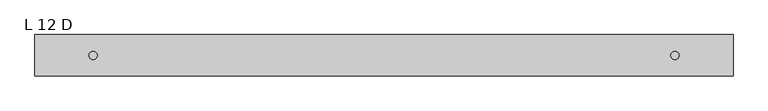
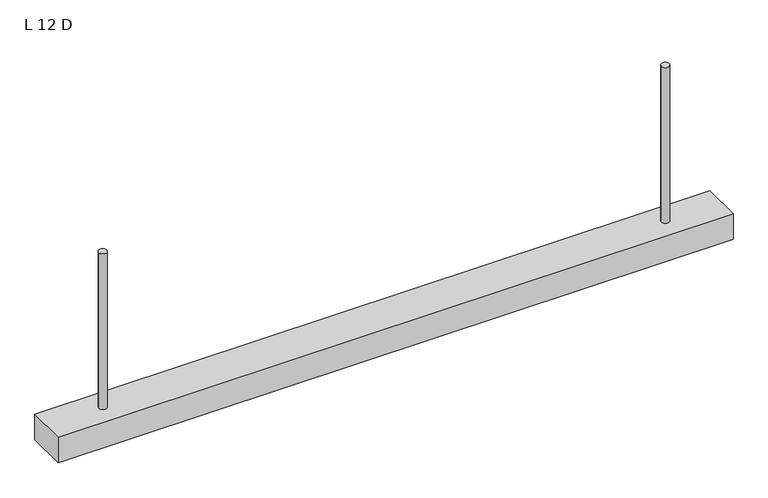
"""IFC4 building model written with IfcOpenShell, lengths in millimetres: light fixture geometry, ZYR_06.02.05 LLuminària Suspesa : L 12 D."""

import ifcopenshell
import ifcopenshell.guid

model = None  # the IFC model being written
_history = None  # IfcOwnerHistory: only IFC2X3 demands one
_inside = {}  # id of a spatial element -> (the spatial element, [elements in it])
_under = {}  # id of a project, library or spatial element -> (it, [spatial elements below it])
_declared = {}  # id of a project -> (the project, [libraries it declares])
_typed = {}  # id of a type object -> (the type object, [elements of that type])
_made_of = {}  # id of a material, layer set ... -> (it, [elements and type objects made of it])


def new_model(schema):
    """Start an empty IFC model of exactly this schema.

    Asked for "IFC4X3", IfcOpenShell would pick the latest addendum, in which some entities
    have other attributes; the version numbers below select the first issue.
    IFC2X3 requires an IfcOwnerHistory on every rooted entity: one is made here for all.
    """
    global model, _history
    if schema == "IFC4X3":
        model = ifcopenshell.file(schema_version=(4, 3, 0, 0))
    else:
        model = ifcopenshell.file(schema=schema)
    _inside.clear()
    _under.clear()
    _declared.clear()
    _typed.clear()
    _made_of.clear()
    _history = None
    if model.schema == "IFC2X3":
        org = make("IfcOrganization", Name="unknown")
        user = make(
            "IfcPersonAndOrganization",
            ThePerson=make("IfcPerson", FamilyName="unknown"),
            TheOrganization=org,
        )
        app = make(
            "IfcApplication",
            ApplicationDeveloper=org,
            Version="unknown",
            ApplicationFullName="unknown",
            ApplicationIdentifier="unknown",
        )
        _history = make(
            "IfcOwnerHistory",
            OwningUser=user,
            OwningApplication=app,
            ChangeAction="ADDED",
            CreationDate=0,
        )
    return model


def make(cls, **values):
    """One entity of the class cls with the attributes given. An attribute that is None is left unset."""
    return model.create_entity(
        cls, **{name: value for name, value in values.items() if value is not None}
    )


def rooted(cls, **values):
    """An entity with a GlobalId (a new one), such as an element, a storey or a relation."""
    return make(cls, GlobalId=ifcopenshell.guid.new(), OwnerHistory=_history, **values)


def si_unit(unit_type, name, prefix=None):
    """IfcSIUnit, for example si_unit("LENGTHUNIT", "METRE", prefix="MILLI")."""
    return make("IfcSIUnit", UnitType=unit_type, Prefix=prefix, Name=name)


def assignment(units):
    """IfcUnitAssignment: the units of a project."""
    return None if units is None else make("IfcUnitAssignment", Units=units)


def point(xyz):
    """IfcCartesianPoint."""
    return None if xyz is None else make("IfcCartesianPoint", Coordinates=xyz)


def direction(xyz):
    """IfcDirection."""
    return None if xyz is None else make("IfcDirection", DirectionRatios=xyz)


def frame(location, z_axis=None, x_axis=None):
    """IfcAxis2Placement3D, a coordinate frame: its origin and axes. An axis left out is left unset."""
    return make(
        "IfcAxis2Placement3D",
        Location=point(location),
        Axis=direction(z_axis),
        RefDirection=direction(x_axis),
    )


def frame_2d(location, x_axis=None):
    """IfcAxis2Placement2D, a coordinate frame in the plane: its origin and x axis."""
    return make(
        "IfcAxis2Placement2D", Location=point(location), RefDirection=direction(x_axis)
    )


def origin():
    """The frame at (0, 0, 0) with its axes left unset."""
    return frame((0.0, 0.0, 0.0))


def origin_with_axes():
    """The frame at (0, 0, 0) with the z axis (0, 0, 1) and the x axis (1, 0, 0) written out."""
    return frame((0.0, 0.0, 0.0), z_axis=(0.0, 0.0, 1.0), x_axis=(1.0, 0.0, 0.0))


def place(relative_to, where):
    """IfcLocalPlacement: puts the frame where relative to a parent placement (None: the world)."""
    return make(
        "IfcLocalPlacement", PlacementRelTo=relative_to, RelativePlacement=where
    )


def context(
    kind, dimensions, precision=None, world=None, true_north=None, identifier=None
):
    """IfcGeometricRepresentationContext, for example the 3D "Model" context."""
    return make(
        "IfcGeometricRepresentationContext",
        ContextIdentifier=identifier,
        ContextType=kind,
        CoordinateSpaceDimension=dimensions,
        Precision=precision,
        WorldCoordinateSystem=world,
        TrueNorth=true_north,
    )


def project(units=None, contexts=None):
    """IfcProject with its units and contexts."""
    return rooted(
        "IfcProject",
        Name="project",
        RepresentationContexts=contexts,
        UnitsInContext=assignment(units),
    )


def spatial(cls, under=None, at=None, **own):
    """A site, building, storey or space (cls), placed at a placement, below another one or the project."""
    s = rooted(cls, ObjectPlacement=at, **own)
    if under is not None:
        _under.setdefault(under.id(), (under, []))[1].append(s)
    return s


def polyline(points):
    """IfcPolyline through the points."""
    return make("IfcPolyline", Points=[point(p) for p in points])


def circle_curve(where, radius):
    """IfcCircle in the frame where."""
    return make("IfcCircle", Position=where, Radius=radius)


def trimmed(basis, trim1, trim2, sense, master):
    """IfcTrimmedCurve: the piece of a basis curve between two trims."""
    return make(
        "IfcTrimmedCurve",
        BasisCurve=basis,
        Trim1=trim1,
        Trim2=trim2,
        SenseAgreement=sense,
        MasterRepresentation=master,
    )


def segment(curve, same_sense, transition):
    """IfcCompositeCurveSegment."""
    return make(
        "IfcCompositeCurveSegment",
        Transition=transition,
        SameSense=same_sense,
        ParentCurve=curve,
    )


def composite_curve(segments, self_intersect=None):
    """IfcCompositeCurve: segments joined end to end."""
    return make("IfcCompositeCurve", Segments=segments, SelfIntersect=self_intersect)


def outline(outer, holes=None, kind="AREA"):
    """IfcArbitraryClosedProfileDef: a profile drawn as a closed curve; with holes, ...WithVoids."""
    if holes is None:
        return make("IfcArbitraryClosedProfileDef", ProfileType=kind, OuterCurve=outer)
    return make(
        "IfcArbitraryProfileDefWithVoids",
        ProfileType=kind,
        OuterCurve=outer,
        InnerCurves=holes,
    )


def extrude(swept, where, along, depth):
    """IfcExtrudedAreaSolid: the profile swept, set in the frame where, extruded along a direction by depth."""
    return make(
        "IfcExtrudedAreaSolid",
        SweptArea=swept,
        Position=where,
        ExtrudedDirection=direction(along),
        Depth=depth,
    )


def shape(context_of_items, identifier, shape_type, items):
    """IfcShapeRepresentation: the items that make up one representation, for example the "Body"."""
    return make(
        "IfcShapeRepresentation",
        ContextOfItems=context_of_items,
        RepresentationIdentifier=identifier,
        RepresentationType=shape_type,
        Items=items,
    )


def source(mapping_origin, context_of_items, identifier, shape_type, items):
    """IfcRepresentationMap: a shape defined once, which mapped items show again and again."""
    return make(
        "IfcRepresentationMap",
        MappingOrigin=mapping_origin,
        MappedRepresentation=shape(context_of_items, identifier, shape_type, items),
    )


def transform(
    local_origin,
    x_axis=None,
    y_axis=None,
    z_axis=None,
    scale=None,
    scale2=None,
    scale3=None,
    uniform=True,
):
    """IfcCartesianTransformationOperator3D, or its non-uniform kind. x_axis, y_axis, z_axis: its Axis1, 2, 3."""
    if uniform:
        return make(
            "IfcCartesianTransformationOperator3D",
            Axis1=direction(x_axis),
            Axis2=direction(y_axis),
            LocalOrigin=point(local_origin),
            Scale=scale,
            Axis3=direction(z_axis),
        )
    return make(
        "IfcCartesianTransformationOperator3DnonUniform",
        Axis1=direction(x_axis),
        Axis2=direction(y_axis),
        LocalOrigin=point(local_origin),
        Scale=scale,
        Axis3=direction(z_axis),
        Scale2=scale2,
        Scale3=scale3,
    )


def mapped(mapping_source, mapping_target):
    """IfcMappedItem: shows the shape of a source again, moved by a transform."""
    return make(
        "IfcMappedItem", MappingSource=mapping_source, MappingTarget=mapping_target
    )


def made_of(thing, what):
    """Note that an element or type object is made of a material, layer set ...; save() writes the relation."""
    if what is not None:
        _made_of.setdefault(what.id(), (what, []))[1].append(thing)
    return thing


def element(
    cls,
    number,
    at=None,
    inside=None,
    cuts=None,
    type_object=None,
    material=None,
    context=None,
    identifier="Body",
    shape_type=None,
    held_by="IfcProductDefinitionShape",
    body=None,
    shapes=None,
    **own,
):
    """One element of the class cls, such as IfcWall. Its Tag is "e" and its number.

    at: its placement. inside: the storey or other place that contains it. cuts: it is an
    opening in that element (IfcRelVoidsElement). A single representation is given by context,
    identifier, shape_type and body (its items); several are given by shapes. held_by: the class
    of the entity that holds the representations. save() writes the other relations.
    """
    e = rooted(cls, Tag="e%d" % number, ObjectPlacement=at, **own)
    if body is not None:
        shapes = [shape(context, identifier, shape_type, body)]
    if shapes is not None:
        e.Representation = make(held_by, Representations=shapes)
    if inside is not None:
        _inside.setdefault(inside.id(), (inside, []))[1].append(e)
    if cuts is not None:
        rooted(
            "IfcRelVoidsElement", RelatingBuildingElement=cuts, RelatedOpeningElement=e
        )
    if type_object is not None:
        _typed.setdefault(type_object.id(), (type_object, []))[1].append(e)
    return made_of(e, material)


def aggregate(whole, parts):
    """IfcRelAggregates: a whole, such as a stair, and the parts it consists of."""
    return rooted("IfcRelAggregates", RelatingObject=whole, RelatedObjects=parts)


def save(model, path):
    """Write the relations noted so far, then the file.

    IfcRelAggregates (storeys below a building ...), IfcRelContainedInSpatialStructure (elements
    in a storey), IfcRelDefinesByType, IfcRelAssociatesMaterial and IfcRelDeclares: one each for
    every whole, place, type object, material and project.
    """
    for whole, parts in _under.values():
        aggregate(whole, parts)
    for where, things in _inside.values():
        rooted(
            "IfcRelContainedInSpatialStructure",
            RelatedElements=things,
            RelatingStructure=where,
        )
    for kind, things in _typed.values():
        rooted("IfcRelDefinesByType", RelatedObjects=things, RelatingType=kind)
    for what, things in _made_of.values():
        rooted("IfcRelAssociatesMaterial", RelatedObjects=things, RelatingMaterial=what)
    for by, libraries in _declared.values():
        rooted("IfcRelDeclares", RelatingContext=by, RelatedDefinitions=libraries)
    model.write(path)


def l_12_d_17e06b88(model_context):
    return source(origin(), model_context, "Body", "SweptSolid", [
        extrude(outline(polyline([(840.0, 50.0), (840.0, -50.0), (-840.0, -50.0), (-840.0, 50.0), (840.0, 50.0)])), origin_with_axes(), (0.0, 0.0, 1.0), 67.0),
        extrude(outline(composite_curve([segment(trimmed(circle_curve(frame_2d((-700.0, 0.0)), 10.0), [point((-710.0, 0.0))], [point((-690.0, 0.0))], False, "CARTESIAN"), True, "CONTINUOUS"), segment(trimmed(circle_curve(frame_2d((-700.0, 0.0)), 10.0), [point((-690.0, 0.0))], [point((-710.0, 0.0))], False, "CARTESIAN"), True, "CONTINUOUS")], self_intersect=False)), frame((0.0, 0.0, 67.0), z_axis=(0.0, 0.0, 1.0), x_axis=(1.0, 0.0, 0.0)), (0.0, 0.0, 1.0), 410.0),
        extrude(outline(composite_curve([segment(trimmed(circle_curve(frame_2d((700.0, 0.0)), 10.0), [point((690.0, 0.0))], [point((710.0, 0.0))], False, "CARTESIAN"), True, "CONTINUOUS"), segment(trimmed(circle_curve(frame_2d((700.0, 0.0)), 10.0), [point((710.0, 0.0))], [point((690.0, 0.0))], False, "CARTESIAN"), True, "CONTINUOUS")], self_intersect=False)), frame((0.0, 0.0, 67.0), z_axis=(0.0, 0.0, 1.0), x_axis=(1.0, 0.0, 0.0)), (0.0, 0.0, 1.0), 410.0),
    ])


if __name__ == "__main__":
    model = new_model("IFC4")
    model_context = context("Model", 3, world=origin())
    ifc_project = project(units=[si_unit("LENGTHUNIT", "METRE", prefix="MILLI")], contexts=[model_context])
    site = spatial("IfcSite", under=ifc_project)
    building = spatial("IfcBuilding", under=site)
    placement = place(None, origin())
    l_12_d_shape = l_12_d_17e06b88(model_context)
    element("IfcLightFixture", 1, ObjectType="ZYR_06.02.05 LLuminària Suspesa : L 12 D", at=placement, inside=building, context=model_context, shape_type="MappedRepresentation", body=[
        mapped(l_12_d_shape, transform((0.0, 0.0, 0.0), x_axis=(1.0, 0.0, 0.0), y_axis=(0.0, 1.0, 0.0), z_axis=(0.0, 0.0, 1.0))),
    ])
    save(model, "model.ifc")
